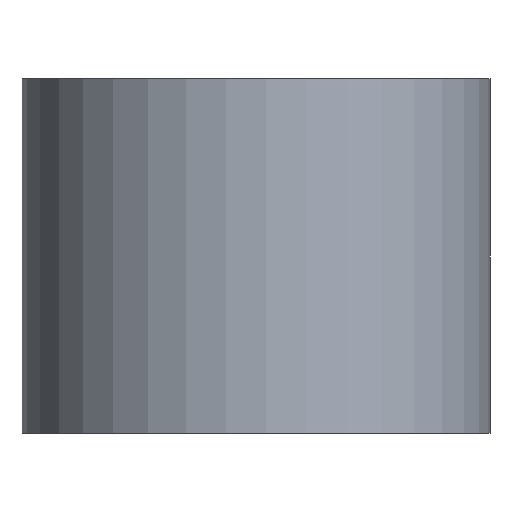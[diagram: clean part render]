
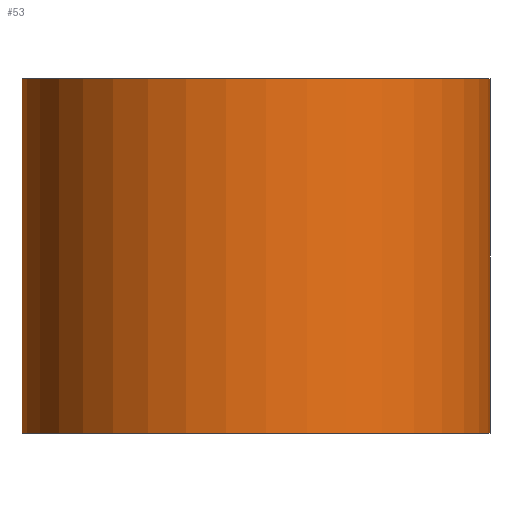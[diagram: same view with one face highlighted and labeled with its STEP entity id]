
A CAD part, front view. The second image highlights one B-rep face of the part: STEP entity #53.
In plain terms, the highlighted cylindrical face has radius 3.969 mm (diameter 7.938 mm), a full revolution.
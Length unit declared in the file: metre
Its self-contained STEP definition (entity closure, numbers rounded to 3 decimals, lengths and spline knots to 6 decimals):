
#16=ORIENTED_EDGE('',*,*,#24,.F.);
#17=ORIENTED_EDGE('',*,*,#25,.T.);
#24=EDGE_CURVE('',#28,#28,#32,.T.);
#25=EDGE_CURVE('',#29,#29,#33,.T.);
#28=VERTEX_POINT('',#103);
#29=VERTEX_POINT('',#105);
#32=CIRCLE('',#73,0.003969);
#33=CIRCLE('',#74,0.003969);
#36=EDGE_LOOP('',(#16));
#37=EDGE_LOOP('',(#17));
#44=FACE_BOUND('',#36,.T.);
#45=FACE_BOUND('',#37,.T.);
#51=CYLINDRICAL_SURFACE('',#72,0.003969);
#53=ADVANCED_FACE('',(#44,#45),#51,.T.);
#72=AXIS2_PLACEMENT_3D('',#101,#85,#86);
#73=AXIS2_PLACEMENT_3D('',#102,#87,#88);
#74=AXIS2_PLACEMENT_3D('',#104,#89,#90);
#85=DIRECTION('',(0.,0.,1.));
#86=DIRECTION('',(0.383,-0.924,0.));
#87=DIRECTION('',(0.,0.,-1.));
#88=DIRECTION('',(0.383,-0.924,0.));
#89=DIRECTION('',(0.,0.,-1.));
#90=DIRECTION('',(-0.383,0.924,0.));
#101=CARTESIAN_POINT('',(-0.075677,0.034798,0.202473));
#102=CARTESIAN_POINT('',(-0.075677,0.034798,0.202823));
#103=CARTESIAN_POINT('',(-0.074157,0.031132,0.202823));
#104=CARTESIAN_POINT('',(-0.075677,0.034798,0.208823));
#105=CARTESIAN_POINT('',(-0.077197,0.038464,0.208823));
